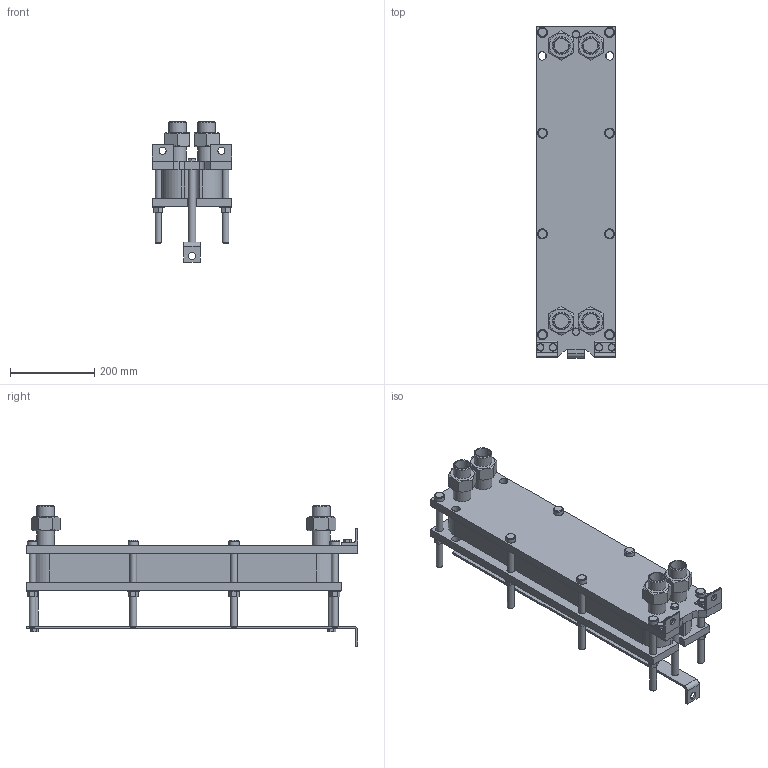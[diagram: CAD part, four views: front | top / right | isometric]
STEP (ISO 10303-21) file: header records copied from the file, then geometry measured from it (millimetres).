
FILE_DESCRIPTION(/* description */ (''),/* implementation_level */ '2;1');
FILE_NAME(/* name */ 'C:\Users\zhuro\Desktop\ENCO\TO\ЭН-008\ЭН-0,5-008-22-1.stp',/* time_stamp */ '2022-06-06T10:46:36+03:00',/* author */ ('zhuro'),/* organization */ (''),/* preprocessor_version */ 'ST-DEVELOPER v18.1',/* originating_system */ 'Autodesk Inventor 2022',/* authorisation */ '');
FILE_SCHEMA (('AUTOMOTIVE_DESIGN { 1 0 10303 214 3 1 1 }'));
Length unit declared in the file: millimetre
Products named in the file (1): ЭН-0,5-008-22-1
Bounding box: 190 x 790 x 334.6 mm (x, y, z)
Volume: 13594267.9 mm3; surface area: 1361736 mm2
Topology: 40 solids, 40 shells, 428 faces, 924 edges, 606 vertices
Faces by surface type: plane 273, cylinder 109, cone 40, torus 6
Full cylindrical faces by diameter (mm): 12 x6, 14 x2, 16 x20, 17 x8, 18 x19, 20 x5, 24 x8, 28 x8, 34.3 x8, 42.3 x8
Entity records: 15843 total; most frequent: CARTESIAN_POINT 5991, DIRECTION 1984, ORIENTED_EDGE 1848, EDGE_CURVE 924, AXIS2_PLACEMENT_3D 715, VERTEX_POINT 606, LINE 554, VECTOR 554
